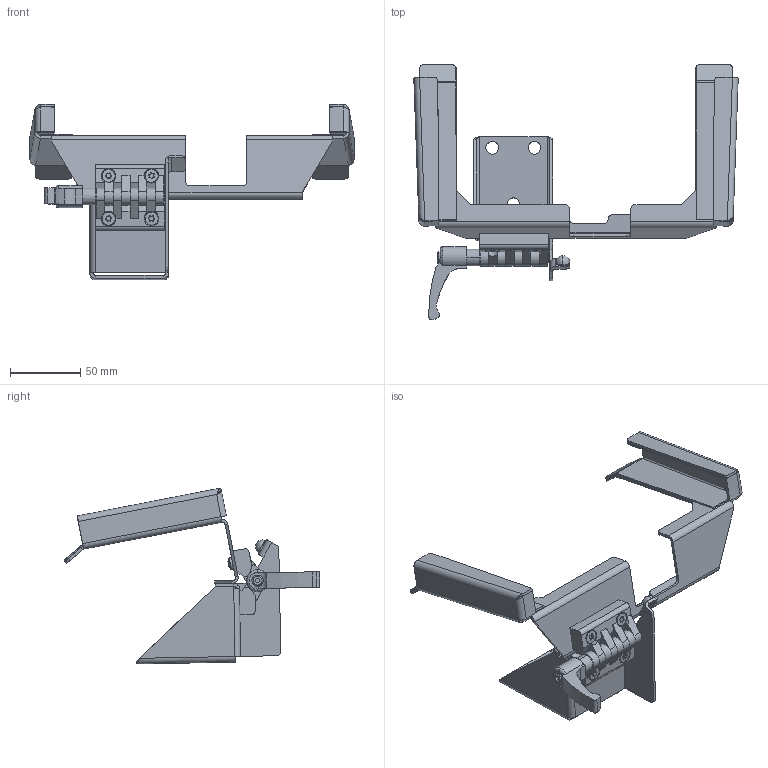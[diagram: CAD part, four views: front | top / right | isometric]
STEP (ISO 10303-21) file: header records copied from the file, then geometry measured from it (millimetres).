
FILE_DESCRIPTION (( 'STEP AP214' ), '1' );
FILE_NAME ('Wandhalterung HGT8xx_HBG8xx (01-245-835-Z5).STEP', '2018-05-23T12:05:57', ( 'SIGMATEK GmbH & Co KG' ), ( 'SIGMATEK GmbH & Co KG' ), 'SwSTEP 2.0', 'SolidWorks 2017', '' );
FILE_SCHEMA (( 'AUTOMOTIVE_DESIGN' ));
Length unit declared in the file: millimetre
Products named in the file (15): Foliensatz für Wandhalterung HBG 8Zoll Var.04; Wandhalterung HBG 10Zoll Teil 2 Var.5; Folie 3 Halterung 8Zoll ; ss_m5_2; Wandhalterung HGT8xx_HBG8xx (01-245-835-Z5); Wandhalterung f黵 HBG 10Zoll Teil2 Var.5; 3030201931_Gerätefuß selbstklebend (Ø 10_ Halbkugel); Folie 4 Halterung 8Zoll ; Folie 2 Halterung 8Zoll ; DEFAULT-1; Folie 1 Halterung 8Zoll ; Senkschraube ISO 7046-2 M5 x 116 - 4.8 - H - A2F; ZM1821-3063-10 Wandhalterung HGT8xx_HBG8xx; DEFAULT
Assembly tree (25 placements, depth 3):
  Wandhalterung HGT8xx_HBG8xx (01-245-835-Z5)
    ZM1821-3063-10 Wandhalterung HGT8xx_HBG8xx
      ZM1821-3063-10 Wandhalterung HGT8xx_HBG8xx
      ss_m5_2  x2
    DEFAULT  x2
    DEFAULT-1
    Senkschraube ISO 7046-2 M5 x 116 - 4.8 - H - A2F  x4
    Foliensatz für Wandhalterung HBG 8Zoll Var.04
      Folie 2 Halterung 8Zoll   x2
      Folie 3 Halterung 8Zoll   x2
      Folie 1 Halterung 8Zoll 
      Folie 4 Halterung 8Zoll 
    Wandhalterung f黵 HBG 10Zoll Teil2 Var.5
      Wandhalterung HBG 10Zoll Teil 2 Var.5
      ss_m5_2  x2
    3030201931_Gerätefuß selbstklebend (Ø 10_ Halbkugel)  x3
Bounding box: 229.97 x 181.21 x 124.84 mm (x, y, z)
Volume: 120374.4 mm3; surface area: 121994.6 mm2
Topology: 22 solids, 22 shells, 1143 faces, 2569 edges, 1491 vertices
Faces by surface type: cylinder 363, cone 330, plane 290, bspline 154, sphere 6
Entity records: 17860 total; most frequent: CARTESIAN_POINT 4052, DIRECTION 2637, ORIENTED_EDGE 2434, EDGE_CURVE 1217, AXIS2_PLACEMENT_3D 982, VERTEX_POINT 721, LINE 673, VECTOR 673
